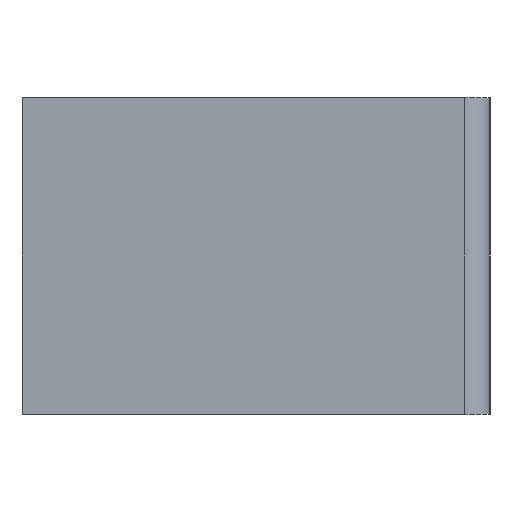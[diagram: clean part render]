
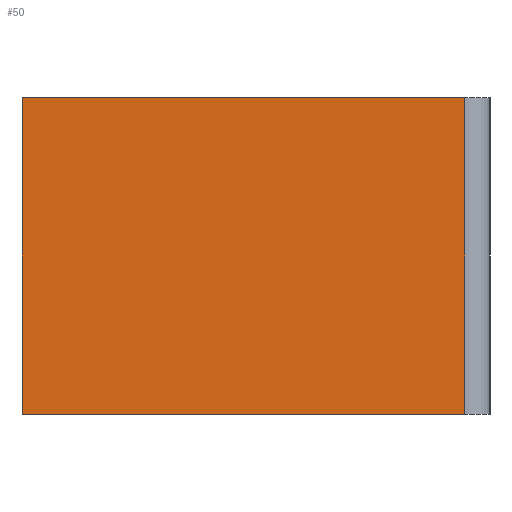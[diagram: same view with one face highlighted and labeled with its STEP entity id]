
A CAD part, left-side view. The second image highlights one B-rep face of the part: STEP entity #50.
In plain terms, the highlighted planar face has unit normal (-1, 0, 0).
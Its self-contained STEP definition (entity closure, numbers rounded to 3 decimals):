
#50 = ADVANCED_FACE( '', ( #104 ), #105, .F. );
#104 = FACE_OUTER_BOUND( '', #163, .T. );
#105 = PLANE( '', #164 );
#163 = EDGE_LOOP( '', ( #238, #239, #240, #241 ) );
#164 = AXIS2_PLACEMENT_3D( '', #242, #243, #244 );
#238 = ORIENTED_EDGE( '', *, *, #354, .T. );
#239 = ORIENTED_EDGE( '', *, *, #345, .F. );
#240 = ORIENTED_EDGE( '', *, *, #355, .F. );
#241 = ORIENTED_EDGE( '', *, *, #356, .T. );
#242 = CARTESIAN_POINT( '', ( -6.5, 0., 12.5 ) );
#243 = DIRECTION( '', ( 1., 0., 0. ) );
#244 = DIRECTION( '', ( 0., 0., -1. ) );
#345 = EDGE_CURVE( '', #403, #401, #405, .T. );
#354 = EDGE_CURVE( '', #419, #401, #420, .T. );
#355 = EDGE_CURVE( '', #421, #403, #422, .T. );
#356 = EDGE_CURVE( '', #421, #419, #423, .T. );
#401 = VERTEX_POINT( '', #483 );
#403 = VERTEX_POINT( '', #485 );
#405 = LINE( '', #487, #488 );
#419 = VERTEX_POINT( '', #506 );
#420 = LINE( '', #507, #508 );
#421 = VERTEX_POINT( '', #509 );
#422 = LINE( '', #510, #511 );
#423 = LINE( '', #512, #513 );
#483 = CARTESIAN_POINT( '', ( -6.5, -35., -12.5 ) );
#485 = CARTESIAN_POINT( '', ( -6.5, -35., 12.5 ) );
#487 = CARTESIAN_POINT( '', ( -6.5, -35., 12.5 ) );
#488 = VECTOR( '', #570, 1000. );
#506 = CARTESIAN_POINT( '', ( -6.5, 0., -12.5 ) );
#507 = CARTESIAN_POINT( '', ( -6.5, 0., -12.5 ) );
#508 = VECTOR( '', #578, 1000. );
#509 = CARTESIAN_POINT( '', ( -6.5, 0., 12.5 ) );
#510 = CARTESIAN_POINT( '', ( -6.5, 0., 12.5 ) );
#511 = VECTOR( '', #579, 1000. );
#512 = CARTESIAN_POINT( '', ( -6.5, 0., 12.5 ) );
#513 = VECTOR( '', #580, 1000. );
#570 = DIRECTION( '', ( 0., 0., -1. ) );
#578 = DIRECTION( '', ( 0., -1., 0. ) );
#579 = DIRECTION( '', ( 0., -1., 0. ) );
#580 = DIRECTION( '', ( 0., 0., -1. ) );
